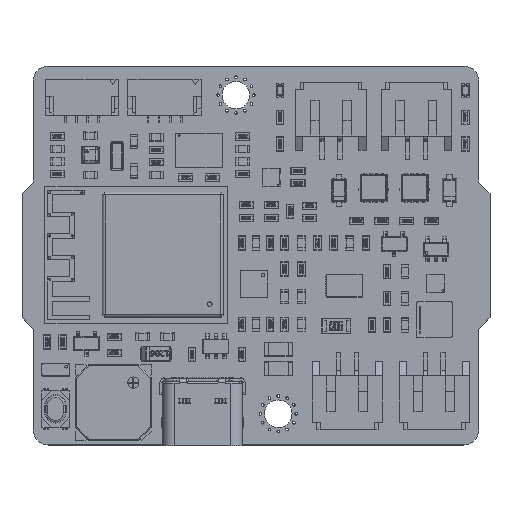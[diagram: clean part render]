
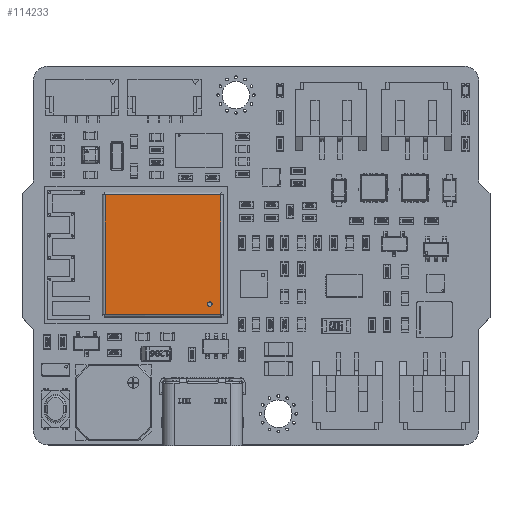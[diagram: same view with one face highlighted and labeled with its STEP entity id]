
A CAD part, top view. The second image highlights one B-rep face of the part: STEP entity #114233.
In plain terms, the highlighted planar face has unit normal (0, 0, 1).
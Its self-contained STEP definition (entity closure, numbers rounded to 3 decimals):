
#114158 = VERTEX_POINT('',#114159);
#114159 = CARTESIAN_POINT('',(21.575,16.05,
    2.55));
#114165 = EDGE_CURVE('',#114166,#114158,#114168,.T.);
#114166 = VERTEX_POINT('',#114167);
#114167 = CARTESIAN_POINT('',(21.075,16.05,
    2.55));
#114168 = CIRCLE('',#114169,0.25);
#114169 = AXIS2_PLACEMENT_3D('',#114170,#114171,#114172);
#114170 = CARTESIAN_POINT('',(21.325,16.05,
    2.55));
#114171 = DIRECTION('',(0.,0.,1.));
#114172 = DIRECTION('',(1.,0.,0.));
#114233 = ADVANCED_FACE('',(#114234,#114244),#114278,.T.);
#114234 = FACE_BOUND('',#114235,.T.);
#114235 = EDGE_LOOP('',(#114236,#114243));
#114236 = ORIENTED_EDGE('',*,*,#114237,.F.);
#114237 = EDGE_CURVE('',#114158,#114166,#114238,.T.);
#114238 = CIRCLE('',#114239,0.25);
#114239 = AXIS2_PLACEMENT_3D('',#114240,#114241,#114242);
#114240 = CARTESIAN_POINT('',(21.325,16.05,
    2.55));
#114241 = DIRECTION('',(0.,0.,1.));
#114242 = DIRECTION('',(1.,0.,0.));
#114243 = ORIENTED_EDGE('',*,*,#114165,.F.);
#114244 = FACE_BOUND('',#114245,.T.);
#114245 = EDGE_LOOP('',(#114246,#114256,#114264,#114272));
#114246 = ORIENTED_EDGE('',*,*,#114247,.T.);
#114247 = EDGE_CURVE('',#114248,#114250,#114252,.T.);
#114248 = VERTEX_POINT('',#114249);
#114249 = CARTESIAN_POINT('',(22.525,28.3,
    2.55));
#114250 = VERTEX_POINT('',#114251);
#114251 = CARTESIAN_POINT('',(9.575,28.3,
    2.55));
#114252 = LINE('',#114253,#114254);
#114253 = CARTESIAN_POINT('',(22.618,28.3,
    2.55));
#114254 = VECTOR('',#114255,1.);
#114255 = DIRECTION('',(-1.,0.,0.));
#114256 = ORIENTED_EDGE('',*,*,#114257,.T.);
#114257 = EDGE_CURVE('',#114250,#114258,#114260,.T.);
#114258 = VERTEX_POINT('',#114259);
#114259 = CARTESIAN_POINT('',(9.575,14.9,
    2.55));
#114260 = LINE('',#114261,#114262);
#114261 = CARTESIAN_POINT('',(9.575,28.393,
    2.55));
#114262 = VECTOR('',#114263,1.);
#114263 = DIRECTION('',(0.,-1.,0.));
#114264 = ORIENTED_EDGE('',*,*,#114265,.T.);
#114265 = EDGE_CURVE('',#114258,#114266,#114268,.T.);
#114266 = VERTEX_POINT('',#114267);
#114267 = CARTESIAN_POINT('',(22.525,14.9,
    2.55));
#114268 = LINE('',#114269,#114270);
#114269 = CARTESIAN_POINT('',(9.482,14.9,
    2.55));
#114270 = VECTOR('',#114271,1.);
#114271 = DIRECTION('',(1.,0.,0.));
#114272 = ORIENTED_EDGE('',*,*,#114273,.T.);
#114273 = EDGE_CURVE('',#114266,#114248,#114274,.T.);
#114274 = LINE('',#114275,#114276);
#114275 = CARTESIAN_POINT('',(22.525,14.807,
    2.55));
#114276 = VECTOR('',#114277,1.);
#114277 = DIRECTION('',(0.,1.,0.));
#114278 = PLANE('',#114279);
#114279 = AXIS2_PLACEMENT_3D('',#114280,#114281,#114282);
#114280 = CARTESIAN_POINT('',(13.075,21.6,
    2.55));
#114281 = DIRECTION('',(0.,0.,1.));
#114282 = DIRECTION('',(1.,0.,0.));
